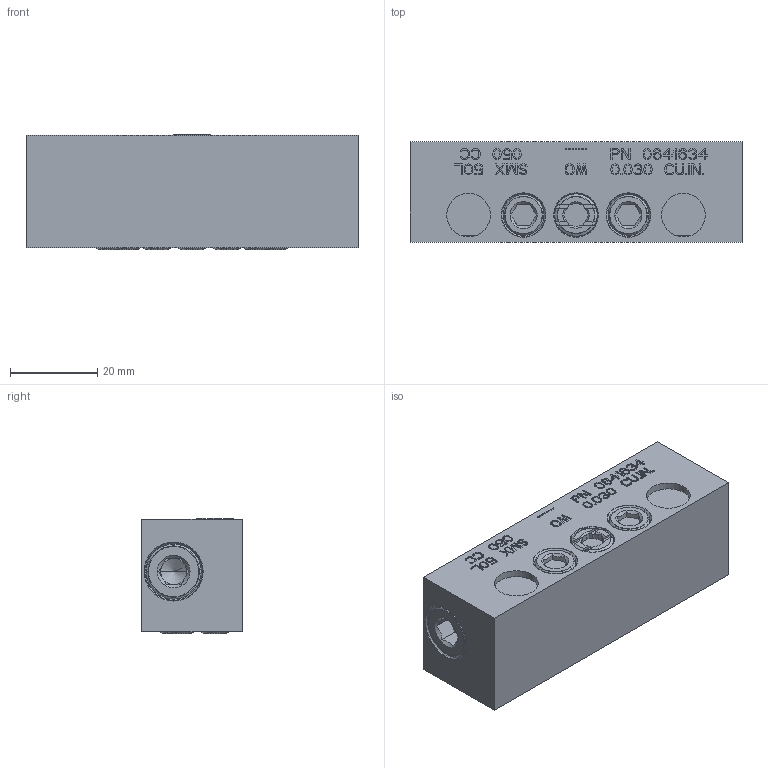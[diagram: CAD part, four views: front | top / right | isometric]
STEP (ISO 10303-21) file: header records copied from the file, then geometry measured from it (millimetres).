
FILE_DESCRIPTION((''),'2;1');
FILE_NAME('0641634_SMX_50L','2023-07-21T11:13:17',('pietro.masciave'),(''),'CREO PARAMETRIC BY PTC INC, 2022281','CREO PARAMETRIC BY PTC INC, 2022281','');
FILE_SCHEMA(('CONFIG_CONTROL_DESIGN'));
Length unit declared in the file: millimetre
Products named in the file (1): 0641634_SMX_50L
Bounding box: 76 x 23 x 26.33 mm (x, y, z)
Volume: 43965.2 mm3; surface area: 12640.1 mm2
Topology: 1 solids, 14 shells, 1377 faces, 3818 edges, 2537 vertices
Faces by surface type: plane 1203, cylinder 108, cone 44, torus 22
Entity records: 44364 total; most frequent: CARTESIAN_POINT 8860, ORIENTED_EDGE 7588, DIRECTION 6861, EDGE_CURVE 3814, VECTOR 3385, LINE 3385, VERTEX_POINT 2537, AXIS2_PLACEMENT_3D 1738
